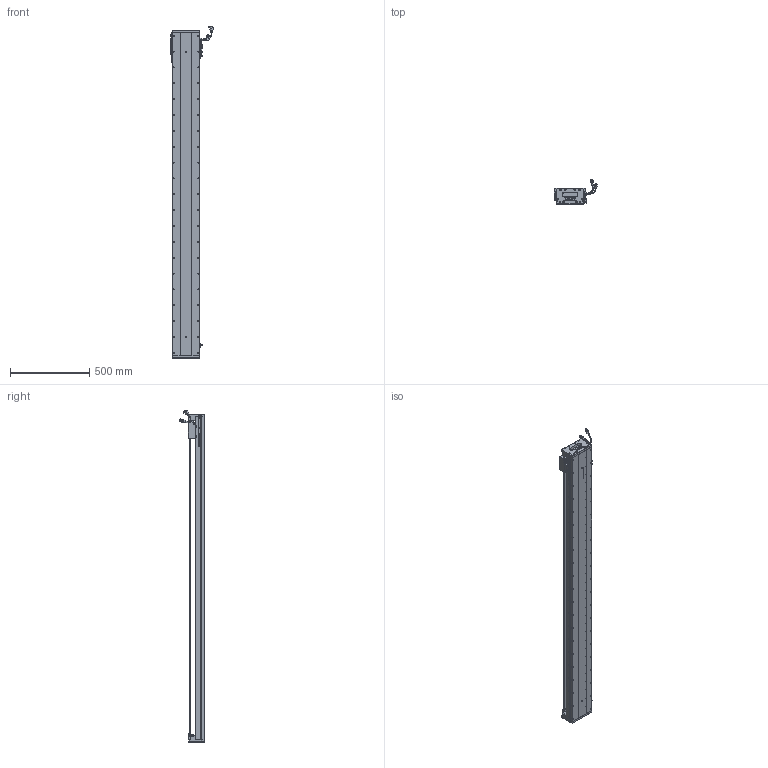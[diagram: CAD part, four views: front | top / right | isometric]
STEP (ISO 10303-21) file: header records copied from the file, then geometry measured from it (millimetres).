
FILE_DESCRIPTION (( 'STEP AP203' ), '1' );
FILE_NAME ('Z1-RY170D-1-L500-B-K.SLDASM_1850.step', '2021-05-17T08:54:02', ( '盈信电脑' ), ( '东莞市道滘镇水果街19号' ), 'SwSTEP 2.0', 'SolidWorks 2016', '' );
FILE_SCHEMA (( 'CONFIG_CONTROL_DESIGN' ));
Length unit declared in the file: millimetre
Products named in the file (36): LABEL; SCALE-Part-2; 080黍杅芛假蚾釱21遴; COVER-Part-1; SCREW-M1.7; HARNESS-Part-2; PBU_SHEET; 140雄赽晤鎢ん堤盄; SCALE; Z-RY170詩湍奻揤裔; 覜茼ん672; 榋妏寠巭燃_暯_M2_2; HARNESS; Z-RY170詩湍狟揤裔; SCALE-Part-1; Z1-RY170-L500耀郪菁釱_1850; RY170直线电机感应器672光电感应片; Z1-RY170臏賑輸(21遴); COVER; LABEL-Part-1; SCREW-M1.6-1; HOLDER0; HARNESS-Part-1; SHIELDPLATE; SEAL; Z-170詩湍傷裔啣; Z1-RY170-L500詩湍145mm遵_1850; 170-Z-臏賑輸盄裔(21遴); SCREW-M1.6-2; PSLH080_PSLF2; SCREW-M1.6-3; SCREW-M1.7-1; 140蚥薯蝶輸; Z1-RY170D-1-L500-B-K.SLDASM_1850; SEAL-Part-1; SCREW-M1.6
Assembly tree (41 placements, depth 4):
  Z1-RY170D-1-L500-B-K.SLDASM_1850
    Z1-RY170-L500耀郪菁釱_1850
    RY170直线电机感应器672光电感应片
    Z1-RY170臏賑輸(21遴)
    覜茼ん672  x3
    PSLH080_PSLF2
      SCALE
        SCALE-Part-1
        SCALE-Part-2
      HARNESS
        HARNESS-Part-1
        HARNESS-Part-2
      LABEL
        LABEL-Part-1
      COVER
        COVER-Part-1
      SEAL
        SEAL-Part-1
      榋妏寠巭燃_暯_M2_2
      SHIELDPLATE
      SCREW-M1.7
      SCREW-M1.7-1
      PBU_SHEET
      SCREW-M1.6
      SCREW-M1.6-1
      SCREW-M1.6-2
      SCREW-M1.6-3
      HOLDER0
    080黍杅芛假蚾釱21遴
    Z1-RY170-L500詩湍145mm遵_1850
    Z-170詩湍傷裔啣  x2
    Z-RY170詩湍奻揤裔  x2
    Z-RY170詩湍狟揤裔  x2
    140蚥薯蝶輸  x2
    170-Z-臏賑輸盄裔(21遴)
    140雄赽晤鎢ん堤盄
Bounding box: 275.34 x 158.11 x 2093.72 mm (x, y, z)
Volume: 10222768.6 mm3; surface area: 2554434.4 mm2
Topology: 36 solids, 36 shells, 3634 faces, 10013 edges, 6275 vertices
Faces by surface type: cylinder 1784, plane 1248, cone 480, torus 69, bspline 53
Entity records: 112665 total; most frequent: CARTESIAN_POINT 31156, ORIENTED_EDGE 16638, DIRECTION 15599, EDGE_CURVE 8319, AXIS2_PLACEMENT_3D 5716, VERTEX_POINT 5393, LINE 4167, VECTOR 4167
